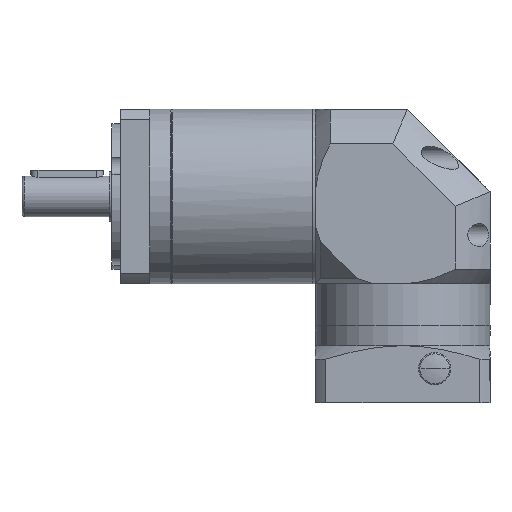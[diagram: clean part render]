
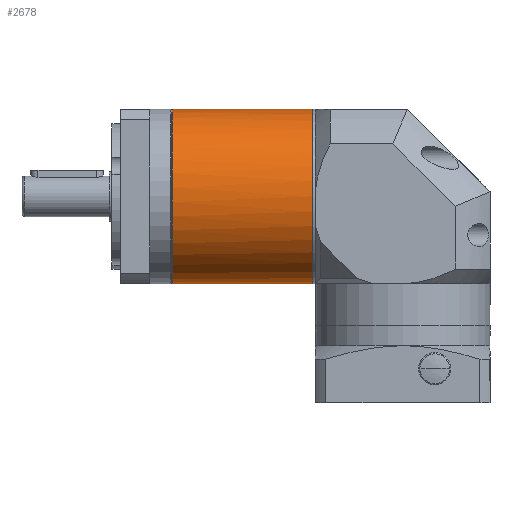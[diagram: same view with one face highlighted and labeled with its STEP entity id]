
A CAD part, left-side view. The second image highlights one B-rep face of the part: STEP entity #2678.
In plain terms, the highlighted cylindrical face has radius 30 mm (diameter 60 mm), a full revolution.
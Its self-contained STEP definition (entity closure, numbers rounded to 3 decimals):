
#1168=FACE_BOUND('',#6520,.T.);
#1169=FACE_BOUND('',#6521,.T.);
#2678=ADVANCED_FACE('',(#1168,#1169),#4155,.T.);
#4155=CYLINDRICAL_SURFACE('',#30371,30.);
#6520=EDGE_LOOP('',(#12864));
#6521=EDGE_LOOP('',(#12865));
#10195=CIRCLE('',#30369,30.);
#10196=CIRCLE('',#30370,30.);
#12864=ORIENTED_EDGE('',*,*,#23273,.T.);
#12865=ORIENTED_EDGE('',*,*,#23274,.T.);
#20185=VERTEX_POINT('',#44991);
#20186=VERTEX_POINT('',#44993);
#23273=EDGE_CURVE('',#20185,#20185,#10195,.T.);
#23274=EDGE_CURVE('',#20186,#20186,#10196,.T.);
#30369=AXIS2_PLACEMENT_3D('',#44990,#34122,#34123);
#30370=AXIS2_PLACEMENT_3D('',#44992,#34124,#34125);
#30371=AXIS2_PLACEMENT_3D('',#44994,#34126,#34127);
#34122=DIRECTION('',(0.,-1.,0.));
#34123=DIRECTION('',(-0.906,0.,0.423));
#34124=DIRECTION('',(0.,1.,0.));
#34125=DIRECTION('',(0.,0.,-1.));
#34126=DIRECTION('',(0.,-1.,0.));
#34127=DIRECTION('',(0.906,0.,-0.423));
#44990=CARTESIAN_POINT('',(-16.155,113.712,180.546));
#44991=CARTESIAN_POINT('',(-43.345,113.712,193.224));
#44992=CARTESIAN_POINT('',(-16.155,65.412,180.546));
#44993=CARTESIAN_POINT('',(-16.155,65.412,150.546));
#44994=CARTESIAN_POINT('',(-16.155,113.912,180.546));
